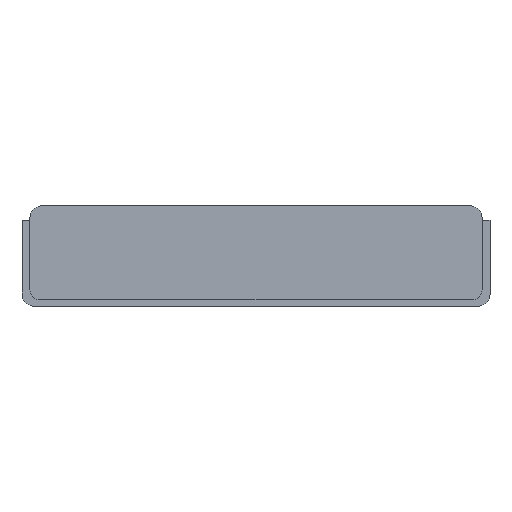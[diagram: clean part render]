
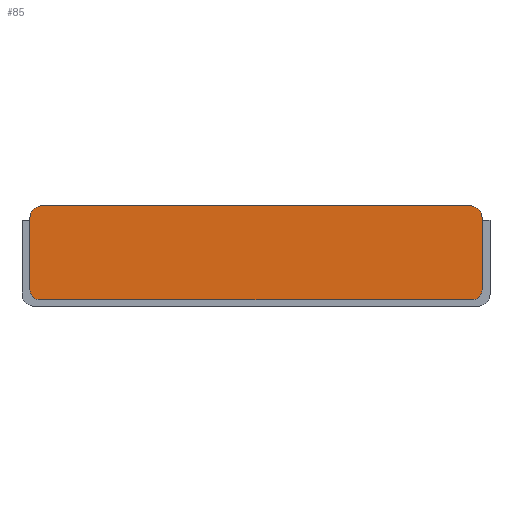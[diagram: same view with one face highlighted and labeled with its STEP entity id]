
A CAD part, top view. The second image highlights one B-rep face of the part: STEP entity #85.
In plain terms, the highlighted planar face has unit normal (0, 0, 1).
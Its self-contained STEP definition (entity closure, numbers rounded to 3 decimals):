
#5 = LINE ( 'NONE', #122, #515 ) ;
#12 = AXIS2_PLACEMENT_3D ( 'NONE', #189, #191, #182 ) ;
#14 = EDGE_CURVE ( 'NONE', #556, #386, #493, .T. ) ;
#68 = ORIENTED_EDGE ( 'NONE', *, *, #117, .T. ) ;
#74 = DIRECTION ( 'NONE',  ( -1., 0., 0. ) ) ;
#75 = VERTEX_POINT ( 'NONE', #421 ) ;
#80 = DIRECTION ( 'NONE',  ( 0., 1., 0. ) ) ;
#83 = VECTOR ( 'NONE', #80, 1000. ) ;
#85 = ADVANCED_FACE ( 'NONE', ( #561 ), #431, .T. ) ;
#86 = CARTESIAN_POINT ( 'NONE',  ( -27.65, 5.75, 0. ) ) ;
#90 = DIRECTION ( 'NONE',  ( 1., 0., 0. ) ) ;
#106 = AXIS2_PLACEMENT_3D ( 'NONE', #422, #416, #414 ) ;
#107 = ORIENTED_EDGE ( 'NONE', *, *, #579, .T. ) ;
#110 = EDGE_LOOP ( 'NONE', ( #144, #140, #308, #352, #107, #397, #296, #68 ) ) ;
#113 = CARTESIAN_POINT ( 'NONE',  ( -27.65, 4.25, 0. ) ) ;
#117 = EDGE_CURVE ( 'NONE', #386, #449, #317, .T. ) ;
#122 = CARTESIAN_POINT ( 'NONE',  ( -27.65, -5.75, 0. ) ) ;
#140 = ORIENTED_EDGE ( 'NONE', *, *, #245, .T. ) ;
#144 = ORIENTED_EDGE ( 'NONE', *, *, #566, .T. ) ;
#168 = VERTEX_POINT ( 'NONE', #448 ) ;
#175 = CARTESIAN_POINT ( 'NONE',  ( 27.65, -4.55, 0. ) ) ;
#182 = DIRECTION ( 'NONE',  ( 1., 0., 0. ) ) ;
#184 = CARTESIAN_POINT ( 'NONE',  ( 27.65, 4.25, 0. ) ) ;
#189 = CARTESIAN_POINT ( 'NONE',  ( 26.15, 4.25, 0. ) ) ;
#191 = DIRECTION ( 'NONE',  ( 0., 0., 1. ) ) ;
#195 = CARTESIAN_POINT ( 'NONE',  ( -26.15, 4.25, 0. ) ) ;
#206 = CARTESIAN_POINT ( 'NONE',  ( -26.45, -5.75, 0. ) ) ;
#234 = DIRECTION ( 'NONE',  ( 0., 0., 1. ) ) ;
#244 = DIRECTION ( 'NONE',  ( 0., 0., 1. ) ) ;
#245 = EDGE_CURVE ( 'NONE', #497, #531, #607, .T. ) ;
#246 = VERTEX_POINT ( 'NONE', #184 ) ;
#264 = EDGE_CURVE ( 'NONE', #75, #556, #375, .T. ) ;
#266 = CARTESIAN_POINT ( 'NONE',  ( 26.45, -5.75, 0. ) ) ;
#271 = EDGE_CURVE ( 'NONE', #531, #246, #516, .T. ) ;
#288 = CARTESIAN_POINT ( 'NONE',  ( -27.65, -4.55, 0. ) ) ;
#296 = ORIENTED_EDGE ( 'NONE', *, *, #14, .T. ) ;
#308 = ORIENTED_EDGE ( 'NONE', *, *, #271, .T. ) ;
#317 = CIRCLE ( 'NONE', #328, 1.2 ) ;
#328 = AXIS2_PLACEMENT_3D ( 'NONE', #454, #480, #479 ) ;
#337 = VECTOR ( 'NONE', #370, 1000. ) ;
#346 = CARTESIAN_POINT ( 'NONE',  ( 26.45, -4.55, 0. ) ) ;
#352 = ORIENTED_EDGE ( 'NONE', *, *, #498, .T. ) ;
#359 = DIRECTION ( 'NONE',  ( 1., 0., 0. ) ) ;
#369 = CARTESIAN_POINT ( 'NONE',  ( 27.65, 5.75, 0. ) ) ;
#370 = DIRECTION ( 'NONE',  ( 0., -1., 0. ) ) ;
#375 = CIRCLE ( 'NONE', #394, 1.5 ) ;
#386 = VERTEX_POINT ( 'NONE', #288 ) ;
#394 = AXIS2_PLACEMENT_3D ( 'NONE', #195, #234, #407 ) ;
#397 = ORIENTED_EDGE ( 'NONE', *, *, #264, .T. ) ;
#399 = CARTESIAN_POINT ( 'NONE',  ( -27.65, 5.75, 0. ) ) ;
#407 = DIRECTION ( 'NONE',  ( 1., 0., 0. ) ) ;
#414 = DIRECTION ( 'NONE',  ( 1., 0., 0. ) ) ;
#416 = DIRECTION ( 'NONE',  ( 0., 0., 1. ) ) ;
#421 = CARTESIAN_POINT ( 'NONE',  ( -26.15, 5.75, 0. ) ) ;
#422 = CARTESIAN_POINT ( 'NONE',  ( 0., 0., 0. ) ) ;
#431 = PLANE ( 'NONE',  #106 ) ;
#448 = CARTESIAN_POINT ( 'NONE',  ( 26.15, 5.75, 0. ) ) ;
#449 = VERTEX_POINT ( 'NONE', #206 ) ;
#454 = CARTESIAN_POINT ( 'NONE',  ( -26.45, -4.55, 0. ) ) ;
#479 = DIRECTION ( 'NONE',  ( 1., 0., 0. ) ) ;
#480 = DIRECTION ( 'NONE',  ( 0., 0., 1. ) ) ;
#493 = LINE ( 'NONE', #399, #337 ) ;
#497 = VERTEX_POINT ( 'NONE', #266 ) ;
#498 = EDGE_CURVE ( 'NONE', #246, #168, #543, .T. ) ;
#508 = AXIS2_PLACEMENT_3D ( 'NONE', #346, #244, #359 ) ;
#515 = VECTOR ( 'NONE', #90, 1000. ) ;
#516 = LINE ( 'NONE', #369, #83 ) ;
#522 = LINE ( 'NONE', #86, #606 ) ;
#531 = VERTEX_POINT ( 'NONE', #175 ) ;
#543 = CIRCLE ( 'NONE', #12, 1.5 ) ;
#556 = VERTEX_POINT ( 'NONE', #113 ) ;
#561 = FACE_OUTER_BOUND ( 'NONE', #110, .T. ) ;
#566 = EDGE_CURVE ( 'NONE', #449, #497, #5, .T. ) ;
#579 = EDGE_CURVE ( 'NONE', #168, #75, #522, .T. ) ;
#606 = VECTOR ( 'NONE', #74, 1000. ) ;
#607 = CIRCLE ( 'NONE', #508, 1.2 ) ;
